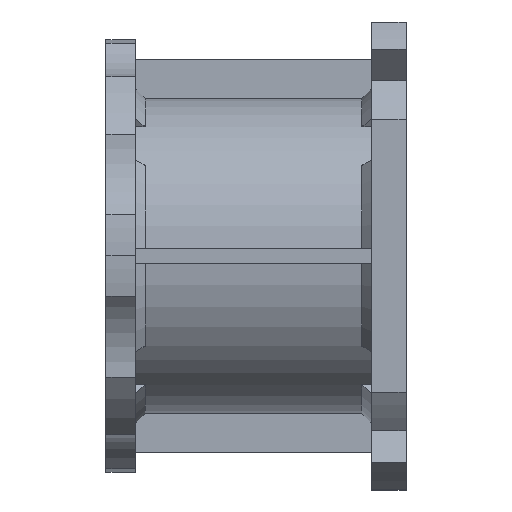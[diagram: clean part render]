
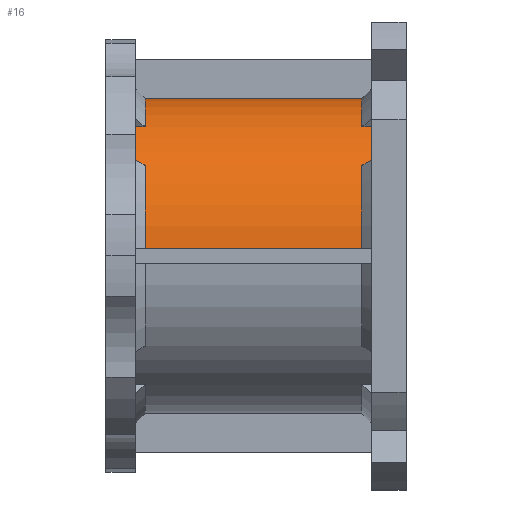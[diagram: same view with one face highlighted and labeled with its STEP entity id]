
A CAD part, top view. The second image highlights one B-rep face of the part: STEP entity #16.
In plain terms, the highlighted cylindrical face has radius 32 mm (diameter 64 mm), a partial arc.
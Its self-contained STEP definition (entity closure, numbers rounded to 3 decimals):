
#16 = ADVANCED_FACE ( 'NONE', ( #165 ), #170, .T. ) ;
#165 = FACE_OUTER_BOUND ( 'NONE', #1783, .T. ) ;
#169 = AXIS2_PLACEMENT_3D ( 'NONE', #5116, #5117, #5118 ) ;
#170 = CYLINDRICAL_SURFACE ( 'NONE', #169, 32. ) ;
#755 = AXIS2_PLACEMENT_3D ( 'NONE', #6284, #6285, #6286 ) ;
#758 = AXIS2_PLACEMENT_3D ( 'NONE', #6287, #6288, #6289 ) ;
#761 = AXIS2_PLACEMENT_3D ( 'NONE', #6303, #6304, #6305 ) ;
#766 = AXIS2_PLACEMENT_3D ( 'NONE', #6332, #6333, #6334 ) ;
#788 = AXIS2_PLACEMENT_3D ( 'NONE', #6419, #6429, #6430 ) ;
#793 = VECTOR ( 'NONE', #6410, 1000. ) ;
#794 = AXIS2_PLACEMENT_3D ( 'NONE', #6407, #6417, #6418 ) ;
#795 = VECTOR ( 'NONE', #6413, 1000. ) ;
#796 = VECTOR ( 'NONE', #6416, 1000. ) ;
#797 = VECTOR ( 'NONE', #6422, 1000. ) ;
#798 = VECTOR ( 'NONE', #6425, 1000. ) ;
#799 = VECTOR ( 'NONE', #6428, 1000. ) ;
#1252 = EDGE_CURVE ( 'NONE', #3426, #3424, #4953, .T. ) ;
#1253 = EDGE_CURVE ( 'NONE', #3427, #3429, #4954, .T. ) ;
#1257 = EDGE_CURVE ( 'NONE', #3433, #3431, #4956, .T. ) ;
#1264 = EDGE_CURVE ( 'NONE', #3436, #3438, #4959, .T. ) ;
#1289 = EDGE_CURVE ( 'NONE', #3451, #3436, #6408, .T. ) ;
#1290 = EDGE_CURVE ( 'NONE', #3429, #3438, #6411, .T. ) ;
#1291 = EDGE_CURVE ( 'NONE', #3427, #3452, #6414, .T. ) ;
#1292 = EDGE_CURVE ( 'NONE', #3453, #3452, #4966, .T. ) ;
#1293 = EDGE_CURVE ( 'NONE', #3424, #3453, #6420, .T. ) ;
#1294 = EDGE_CURVE ( 'NONE', #3426, #3433, #6423, .T. ) ;
#1295 = EDGE_CURVE ( 'NONE', #3454, #3431, #6426, .T. ) ;
#1296 = EDGE_CURVE ( 'NONE', #3454, #3451, #4967, .T. ) ;
#1560 = ORIENTED_EDGE ( 'NONE', *, *, #1289, .T. ) ;
#1562 = ORIENTED_EDGE ( 'NONE', *, *, #1290, .F. ) ;
#1563 = ORIENTED_EDGE ( 'NONE', *, *, #1264, .T. ) ;
#1564 = ORIENTED_EDGE ( 'NONE', *, *, #1253, .F. ) ;
#1565 = ORIENTED_EDGE ( 'NONE', *, *, #1291, .T. ) ;
#1566 = ORIENTED_EDGE ( 'NONE', *, *, #1293, .F. ) ;
#1567 = ORIENTED_EDGE ( 'NONE', *, *, #1292, .F. ) ;
#1568 = ORIENTED_EDGE ( 'NONE', *, *, #1252, .F. ) ;
#1569 = ORIENTED_EDGE ( 'NONE', *, *, #1294, .T. ) ;
#1570 = ORIENTED_EDGE ( 'NONE', *, *, #1257, .T. ) ;
#1571 = ORIENTED_EDGE ( 'NONE', *, *, #1295, .F. ) ;
#1573 = ORIENTED_EDGE ( 'NONE', *, *, #1296, .T. ) ;
#1783 = EDGE_LOOP ( 'NONE', ( #1560, #1563, #1562, #1564, #1565, #1567, #1566, #1568, #1569, #1570, #1571, #1573 ) ) ;
#3424 = VERTEX_POINT ( 'NONE', #9967 ) ;
#3426 = VERTEX_POINT ( 'NONE', #9969 ) ;
#3427 = VERTEX_POINT ( 'NONE', #9970 ) ;
#3429 = VERTEX_POINT ( 'NONE', #9972 ) ;
#3431 = VERTEX_POINT ( 'NONE', #9974 ) ;
#3433 = VERTEX_POINT ( 'NONE', #9976 ) ;
#3436 = VERTEX_POINT ( 'NONE', #9979 ) ;
#3438 = VERTEX_POINT ( 'NONE', #9981 ) ;
#3451 = VERTEX_POINT ( 'NONE', #9994 ) ;
#3452 = VERTEX_POINT ( 'NONE', #9995 ) ;
#3453 = VERTEX_POINT ( 'NONE', #9996 ) ;
#3454 = VERTEX_POINT ( 'NONE', #9997 ) ;
#4953 = CIRCLE ( 'NONE', #755, 32. ) ;
#4954 = CIRCLE ( 'NONE', #758, 32. ) ;
#4956 = CIRCLE ( 'NONE', #761, 32. ) ;
#4959 = CIRCLE ( 'NONE', #766, 32. ) ;
#4966 = CIRCLE ( 'NONE', #794, 32. ) ;
#4967 = CIRCLE ( 'NONE', #788, 32. ) ;
#5116 = CARTESIAN_POINT ( 'NONE',  ( 0., 0., 0. ) ) ;
#5117 = DIRECTION ( 'NONE',  ( -1., 0., 0. ) ) ;
#5118 = DIRECTION ( 'NONE',  ( 0., 0., 1. ) ) ;
#6284 = CARTESIAN_POINT ( 'NONE',  ( 8., 0., 0. ) ) ;
#6285 = DIRECTION ( 'NONE',  ( -1., 0., 0. ) ) ;
#6286 = DIRECTION ( 'NONE',  ( 0., 0., 1. ) ) ;
#6287 = CARTESIAN_POINT ( 'NONE',  ( 8., 0., 0. ) ) ;
#6288 = DIRECTION ( 'NONE',  ( -1., 0., 0. ) ) ;
#6289 = DIRECTION ( 'NONE',  ( 0., 0., 1. ) ) ;
#6303 = CARTESIAN_POINT ( 'NONE',  ( 52., 0., 0. ) ) ;
#6304 = DIRECTION ( 'NONE',  ( -1., 0., 0. ) ) ;
#6305 = DIRECTION ( 'NONE',  ( 0., 0., 1. ) ) ;
#6332 = CARTESIAN_POINT ( 'NONE',  ( 52., 0., 0. ) ) ;
#6333 = DIRECTION ( 'NONE',  ( -1., 0., 0. ) ) ;
#6334 = DIRECTION ( 'NONE',  ( 0., 0., 1. ) ) ;
#6407 = CARTESIAN_POINT ( 'NONE',  ( 6., 0., 0. ) ) ;
#6408 = LINE ( 'NONE', #6409, #793 ) ;
#6409 = CARTESIAN_POINT ( 'NONE',  ( 79.015, 26.213, 18.354 ) ) ;
#6410 = DIRECTION ( 'NONE',  ( -1., 0., 0. ) ) ;
#6411 = LINE ( 'NONE', #6412, #795 ) ;
#6412 = CARTESIAN_POINT ( 'NONE',  ( -2.577, 31.965, 1.5 ) ) ;
#6413 = DIRECTION ( 'NONE',  ( 1., 0., 0. ) ) ;
#6414 = LINE ( 'NONE', #6415, #796 ) ;
#6415 = CARTESIAN_POINT ( 'NONE',  ( 79.015, 26.213, 18.354 ) ) ;
#6416 = DIRECTION ( 'NONE',  ( -1., 0., 0. ) ) ;
#6417 = DIRECTION ( 'NONE',  ( -1., 0., 0. ) ) ;
#6418 = DIRECTION ( 'NONE',  ( 0., 0., -1. ) ) ;
#6419 = CARTESIAN_POINT ( 'NONE',  ( 54., 0., 0. ) ) ;
#6420 = LINE ( 'NONE', #6421, #797 ) ;
#6421 = CARTESIAN_POINT ( 'NONE',  ( 79.015, 18.354, 26.213 ) ) ;
#6422 = DIRECTION ( 'NONE',  ( -1., 0., 0. ) ) ;
#6423 = LINE ( 'NONE', #6424, #798 ) ;
#6424 = CARTESIAN_POINT ( 'NONE',  ( -2.577, 1.5, 31.965 ) ) ;
#6425 = DIRECTION ( 'NONE',  ( 1., 0., 0. ) ) ;
#6426 = LINE ( 'NONE', #6427, #799 ) ;
#6427 = CARTESIAN_POINT ( 'NONE',  ( 79.015, 18.354, 26.213 ) ) ;
#6428 = DIRECTION ( 'NONE',  ( -1., 0., 0. ) ) ;
#6429 = DIRECTION ( 'NONE',  ( -1., 0., 0. ) ) ;
#6430 = DIRECTION ( 'NONE',  ( 0., 0., -1. ) ) ;
#9967 = CARTESIAN_POINT ( 'NONE',  ( 8., 18.354, 26.213 ) ) ;
#9969 = CARTESIAN_POINT ( 'NONE',  ( 8., 1.5, 31.965 ) ) ;
#9970 = CARTESIAN_POINT ( 'NONE',  ( 8., 26.213, 18.354 ) ) ;
#9972 = CARTESIAN_POINT ( 'NONE',  ( 8., 31.965, 1.5 ) ) ;
#9974 = CARTESIAN_POINT ( 'NONE',  ( 52., 18.354, 26.213 ) ) ;
#9976 = CARTESIAN_POINT ( 'NONE',  ( 52., 1.5, 31.965 ) ) ;
#9979 = CARTESIAN_POINT ( 'NONE',  ( 52., 26.213, 18.354 ) ) ;
#9981 = CARTESIAN_POINT ( 'NONE',  ( 52., 31.965, 1.5 ) ) ;
#9994 = CARTESIAN_POINT ( 'NONE',  ( 54., 26.213, 18.354 ) ) ;
#9995 = CARTESIAN_POINT ( 'NONE',  ( 6., 26.213, 18.354 ) ) ;
#9996 = CARTESIAN_POINT ( 'NONE',  ( 6., 18.354, 26.213 ) ) ;
#9997 = CARTESIAN_POINT ( 'NONE',  ( 54., 18.354, 26.213 ) ) ;
